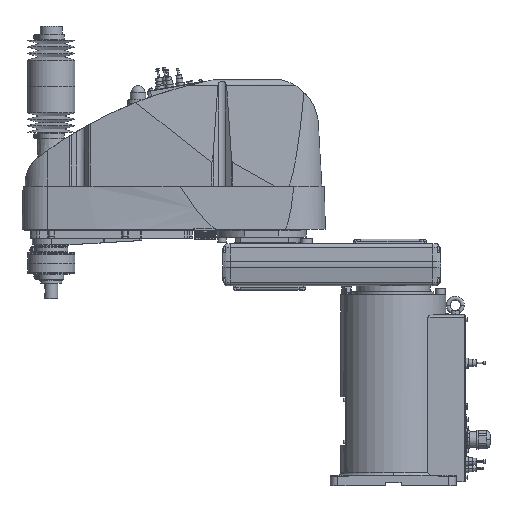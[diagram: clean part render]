
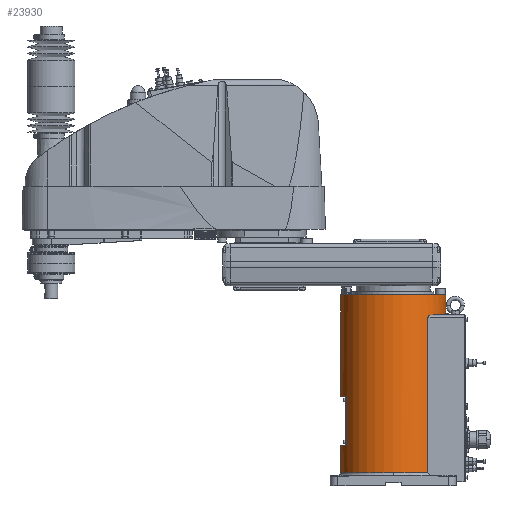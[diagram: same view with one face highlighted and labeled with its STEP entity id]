
A CAD part, top view. The second image highlights one B-rep face of the part: STEP entity #23930.
In plain terms, the highlighted cylindrical face has radius 100 mm (diameter 200 mm), a partial arc.
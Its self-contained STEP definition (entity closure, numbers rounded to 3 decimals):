
#11954 = VERTEX_POINT( '', #34183 );
#12186 = VERTEX_POINT( '', #34434 );
#13996 = VERTEX_POINT( '', #36447 );
#15362 = EDGE_CURVE( '', #22528, #27350, #37973, .T. );
#16430 = EDGE_CURVE( '', #27350, #13996, #39157, .T. );
#18290 = VERTEX_POINT( '', #41245 );
#19276 = VERTEX_POINT( '', #42351 );
#19512 = EDGE_CURVE( '', #30230, #12186, #42617, .T. );
#19882 = VERTEX_POINT( '', #43030 );
#20022 = EDGE_CURVE( '', #12186, #19882, #43181, .T. );
#20402 = EDGE_CURVE( '', #31020, #22028, #43603, .T. );
#20424 = EDGE_CURVE( '', #19882, #21950, #43626, .T. );
#21950 = VERTEX_POINT( '', #45331 );
#22028 = VERTEX_POINT( '', #45418 );
#22466 = VERTEX_POINT( '', #45899 );
#22528 = VERTEX_POINT( '', #45968 );
#23118 = EDGE_CURVE( '', #32444, #19276, #46618, .T. );
#23200 = EDGE_CURVE( '', #22028, #32444, #46711, .T. );
#23356 = VERTEX_POINT( '', #46896 );
#23820 = EDGE_CURVE( '', #19276, #23356, #47402, .T. );
#23886 = VERTEX_POINT( '', #47477 );
#23930 = ADVANCED_FACE( '', ( #47525 ), #47526, .T. );
#25480 = EDGE_CURVE( '', #22466, #23886, #49246, .T. );
#26616 = EDGE_CURVE( '', #21950, #22466, #50524, .T. );
#26966 = EDGE_CURVE( '', #23356, #18290, #50915, .T. );
#27276 = EDGE_CURVE( '', #30230, #13996, #51257, .T. );
#27350 = VERTEX_POINT( '', #51356 );
#28488 = EDGE_CURVE( '', #23886, #11954, #52628, .T. );
#28582 = EDGE_CURVE( '', #11954, #31020, #52740, .T. );
#30230 = VERTEX_POINT( '', #54577 );
#31020 = VERTEX_POINT( '', #55441 );
#31038 = EDGE_CURVE( '', #18290, #22528, #55460, .T. );
#32444 = VERTEX_POINT( '', #57025 );
#34183 = CARTESIAN_POINT( '', ( 0., 25., 100. ) );
#34434 = CARTESIAN_POINT( '', ( -100., 169.7, 0. ) );
#36447 = CARTESIAN_POINT( '', ( 100., 363., 0. ) );
#37973 = CIRCLE( '', #64728, 100. );
#39157 = LINE( '', #66511, #66512 );
#41245 = CARTESIAN_POINT( '', ( 89.303, 326., 45. ) );
#42351 = CARTESIAN_POINT( '', ( 75.993, 324., 65. ) );
#42617 = LINE( '', #71400, #71401 );
#43030 = CARTESIAN_POINT( '', ( -88., 169.7, 47.497 ) );
#43181 = CIRCLE( '', #72181, 100. );
#43603 = LINE( '', #72814, #72815 );
#43626 = LINE( '', #72852, #72853 );
#45331 = CARTESIAN_POINT( '', ( -88., 76.7, 47.497 ) );
#45418 = CARTESIAN_POINT( '', ( 66.144, 320., 75. ) );
#45899 = CARTESIAN_POINT( '', ( -100., 76.7, 0. ) );
#45968 = CARTESIAN_POINT( '', ( 89.303, 324., 45. ) );
#46618 = CIRCLE( '', #77263, 100. );
#46711 = B_SPLINE_CURVE_WITH_KNOTS( '', 3, ( #77422, #77423, #77424, #77425, #77426, #77427, #77428, #77429, #77430, #77431, #77432, #77433, #77434, #77435, #77436, #77437, #77438, #77439 ), .UNSPECIFIED., .F., .F., ( 4, 2, 2, 2, 2, 2, 2, 2, 4 ), ( 14.722, 15.472, 16.222, 16.971, 17.721, 18.842, 19.962, 21.082, 22.202 ), .UNSPECIFIED. );
#46896 = CARTESIAN_POINT( '', ( 75.993, 326., 65. ) );
#47402 = LINE( '', #78474, #78475 );
#47477 = CARTESIAN_POINT( '', ( -100., 25., 0. ) );
#47525 = FACE_OUTER_BOUND( '', #78677, .T. );
#47526 = CYLINDRICAL_SURFACE( '', #78678, 100. );
#49246 = LINE( '', #81178, #81179 );
#50524 = CIRCLE( '', #83065, 100. );
#50915 = CIRCLE( '', #83599, 100. );
#51257 = CIRCLE( '', #84124, 100. );
#51356 = CARTESIAN_POINT( '', ( 100., 324., 0. ) );
#52628 = CIRCLE( '', #86124, 100. );
#52740 = CIRCLE( '', #86291, 100. );
#54577 = CARTESIAN_POINT( '', ( -100., 363., 0. ) );
#55441 = CARTESIAN_POINT( '', ( 66.144, 25., 75. ) );
#55460 = LINE( '', #90470, #90471 );
#57025 = CARTESIAN_POINT( '', ( 70.42, 324., 71. ) );
#64728 = AXIS2_PLACEMENT_3D( '', #99646, #99647, #99648 );
#66511 = CARTESIAN_POINT( '', ( 100., 194., 0. ) );
#66512 = VECTOR( '', #100948, 1. );
#71400 = CARTESIAN_POINT( '', ( -100., 194., 0. ) );
#71401 = VECTOR( '', #104962, 1. );
#72181 = AXIS2_PLACEMENT_3D( '', #105574, #105575, #105576 );
#72814 = CARTESIAN_POINT( '', ( 66.144, 172.5, 75. ) );
#72815 = VECTOR( '', #106060, 1. );
#72852 = CARTESIAN_POINT( '', ( -88., 123.2, 47.497 ) );
#72853 = VECTOR( '', #106083, 1. );
#77263 = AXIS2_PLACEMENT_3D( '', #109476, #109477, #109478 );
#77422 = CARTESIAN_POINT( '', ( 66.144, 320., 75. ) );
#77423 = CARTESIAN_POINT( '', ( 66.144, 320.25, 75. ) );
#77424 = CARTESIAN_POINT( '', ( 66.171, 320.503, 74.976 ) );
#77425 = CARTESIAN_POINT( '', ( 66.277, 320.995, 74.882 ) );
#77426 = CARTESIAN_POINT( '', ( 66.356, 321.234, 74.812 ) );
#77427 = CARTESIAN_POINT( '', ( 66.555, 321.685, 74.636 ) );
#77428 = CARTESIAN_POINT( '', ( 66.674, 321.897, 74.529 ) );
#77429 = CARTESIAN_POINT( '', ( 66.938, 322.284, 74.292 ) );
#77430 = CARTESIAN_POINT( '', ( 67.082, 322.458, 74.162 ) );
#77431 = CARTESIAN_POINT( '', ( 67.446, 322.842, 73.831 ) );
#77432 = CARTESIAN_POINT( '', ( 67.688, 323.046, 73.61 ) );
#77433 = CARTESIAN_POINT( '', ( 68.203, 323.396, 73.134 ) );
#77434 = CARTESIAN_POINT( '', ( 68.475, 323.543, 72.879 ) );
#77435 = CARTESIAN_POINT( '', ( 69.031, 323.776, 72.352 ) );
#77436 = CARTESIAN_POINT( '', ( 69.316, 323.861, 72.08 ) );
#77437 = CARTESIAN_POINT( '', ( 69.877, 323.974, 71.535 ) );
#77438 = CARTESIAN_POINT( '', ( 70.155, 324., 71.263 ) );
#77439 = CARTESIAN_POINT( '', ( 70.42, 324., 71. ) );
#78474 = CARTESIAN_POINT( '', ( 75.993, 325., 65. ) );
#78475 = VECTOR( '', #110317, 1. );
#78677 = EDGE_LOOP( '', ( #110451, #110452, #110453, #110454, #110455, #110456, #110457, #110458, #110459, #110460, #110461, #110462, #110463, #110464, #110465, #110466 ) );
#78678 = AXIS2_PLACEMENT_3D( '', #110467, #110468, #110469 );
#81178 = CARTESIAN_POINT( '', ( -100., 194., 0. ) );
#81179 = VECTOR( '', #112445, 1. );
#83065 = AXIS2_PLACEMENT_3D( '', #113897, #113898, #113899 );
#83599 = AXIS2_PLACEMENT_3D( '', #114325, #114326, #114327 );
#84124 = AXIS2_PLACEMENT_3D( '', #114695, #114696, #114697 );
#86124 = AXIS2_PLACEMENT_3D( '', #116384, #116385, #116386 );
#86291 = AXIS2_PLACEMENT_3D( '', #116553, #116554, #116555 );
#90470 = CARTESIAN_POINT( '', ( 89.303, 325., 45. ) );
#90471 = VECTOR( '', #119704, 1. );
#99646 = CARTESIAN_POINT( '', ( 0., 324., 0. ) );
#99647 = DIRECTION( '', ( 0., 1., 0. ) );
#99648 = DIRECTION( '', ( 1., 0., 0. ) );
#100948 = DIRECTION( '', ( 0., 1., 0. ) );
#104962 = DIRECTION( '', ( 0., -1., 0. ) );
#105574 = CARTESIAN_POINT( '', ( 0., 169.7, 0. ) );
#105575 = DIRECTION( '', ( 0., 1., 0. ) );
#105576 = DIRECTION( '', ( 1., 0., 0. ) );
#106060 = DIRECTION( '', ( 0., 1., 0. ) );
#106083 = DIRECTION( '', ( 0., -1., 0. ) );
#109476 = CARTESIAN_POINT( '', ( 0., 324., 0. ) );
#109477 = DIRECTION( '', ( 0., 1., 0. ) );
#109478 = DIRECTION( '', ( 1., 0., 0. ) );
#110317 = DIRECTION( '', ( 0., 1., 0. ) );
#110451 = ORIENTED_EDGE( '', *, *, #16430, .T. );
#110452 = ORIENTED_EDGE( '', *, *, #27276, .F. );
#110453 = ORIENTED_EDGE( '', *, *, #19512, .T. );
#110454 = ORIENTED_EDGE( '', *, *, #20022, .T. );
#110455 = ORIENTED_EDGE( '', *, *, #20424, .T. );
#110456 = ORIENTED_EDGE( '', *, *, #26616, .T. );
#110457 = ORIENTED_EDGE( '', *, *, #25480, .T. );
#110458 = ORIENTED_EDGE( '', *, *, #28488, .T. );
#110459 = ORIENTED_EDGE( '', *, *, #28582, .T. );
#110460 = ORIENTED_EDGE( '', *, *, #20402, .T. );
#110461 = ORIENTED_EDGE( '', *, *, #23200, .T. );
#110462 = ORIENTED_EDGE( '', *, *, #23118, .T. );
#110463 = ORIENTED_EDGE( '', *, *, #23820, .T. );
#110464 = ORIENTED_EDGE( '', *, *, #26966, .T. );
#110465 = ORIENTED_EDGE( '', *, *, #31038, .T. );
#110466 = ORIENTED_EDGE( '', *, *, #15362, .T. );
#110467 = CARTESIAN_POINT( '', ( 0., 194., 0. ) );
#110468 = DIRECTION( '', ( 0., -1., 0. ) );
#110469 = DIRECTION( '', ( 1., 0., 0. ) );
#112445 = DIRECTION( '', ( 0., -1., 0. ) );
#113897 = CARTESIAN_POINT( '', ( 0., 76.7, 0. ) );
#113898 = DIRECTION( '', ( 0., -1., 0. ) );
#113899 = DIRECTION( '', ( 1., 0., 0. ) );
#114325 = CARTESIAN_POINT( '', ( 0., 326., 0. ) );
#114326 = DIRECTION( '', ( 0., 1., 0. ) );
#114327 = DIRECTION( '', ( 1., 0., 0. ) );
#114695 = CARTESIAN_POINT( '', ( 0., 363., 0. ) );
#114696 = DIRECTION( '', ( 0., 1., 0. ) );
#114697 = DIRECTION( '', ( 1., 0., 0. ) );
#116384 = CARTESIAN_POINT( '', ( 0., 25., 0. ) );
#116385 = DIRECTION( '', ( 0., 1., 0. ) );
#116386 = DIRECTION( '', ( 1., 0., 0. ) );
#116553 = CARTESIAN_POINT( '', ( 0., 25., 0. ) );
#116554 = DIRECTION( '', ( 0., 1., 0. ) );
#116555 = DIRECTION( '', ( 1., 0., 0. ) );
#119704 = DIRECTION( '', ( 0., -1., 0. ) );
